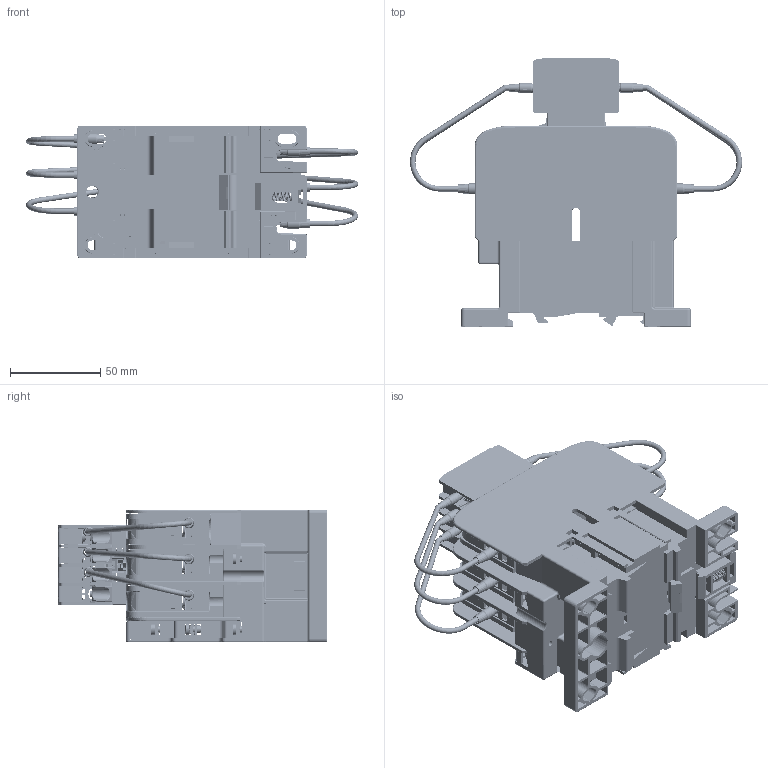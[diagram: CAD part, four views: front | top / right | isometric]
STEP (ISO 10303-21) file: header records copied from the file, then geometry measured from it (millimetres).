
FILE_DESCRIPTION((''),'2;1');
FILE_NAME('2TZD_400_1066_SW0002','2022-04-11T',('wangchen1'),(''),'PRO/ENGINEER BY PARAMETRIC TECHNOLOGY CORPORATION, 2017170','PRO/ENGINEER BY PARAMETRIC TECHNOLOGY CORPORATION, 2017170','');
FILE_SCHEMA(('CONFIG_CONTROL_DESIGN'));
Products named in the file (1): 2TZD_400_1066_SW0002
Bounding box: 183.51 x 148.8 x 73.5 mm (x, y, z)
Surface area: 265369.7 mm2 (no closed solid volume)
Topology: 0 solids, 455 shells, 5372 faces, 23637 edges, 18013 vertices
Faces by surface type: plane 3373, cylinder 1425, cone 180, bspline 175, torus 144, sphere 71, extrusion 4
Entity records: 309138 total; most frequent: CARTESIAN_POINT 76808, DIRECTION 37824, ORIENTED_EDGE 34229, EDGE_CURVE 23633, VERTEX_POINT 18013, VECTOR 16898, LINE 16894, AXIS2_PLACEMENT_3D 10463
